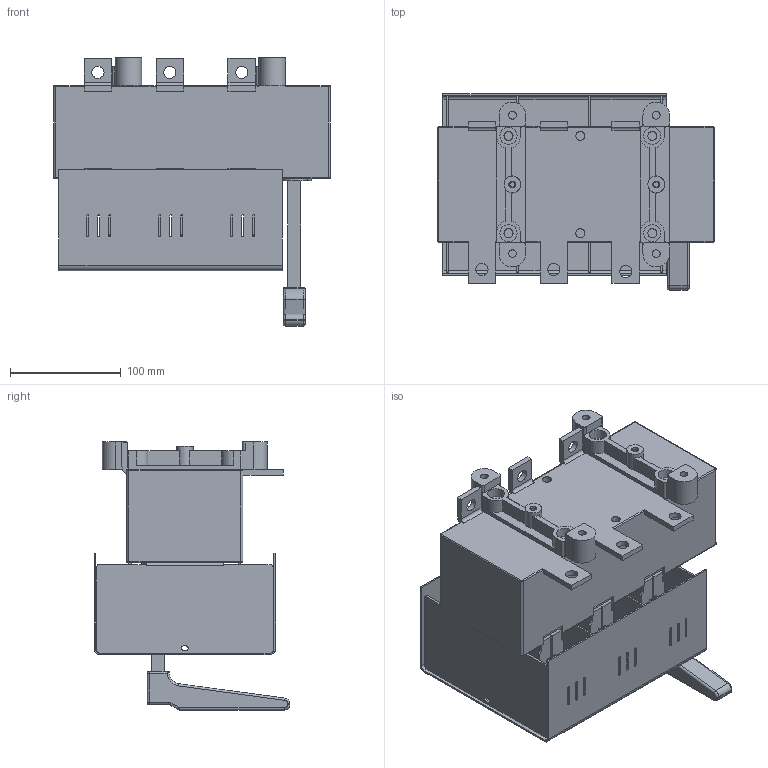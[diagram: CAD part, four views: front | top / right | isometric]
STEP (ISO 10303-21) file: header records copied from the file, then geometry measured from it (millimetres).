
FILE_DESCRIPTION(/* description */ (''),/* implementation_level */ '2;1');
FILE_NAME(/* name */ 'RAB 2 P3 B-R.stp',/* time_stamp */ '2021-08-19T13:56:56+02:00',/* author */ (''),/* organization */ (''),/* preprocessor_version */ 'ST-DEVELOPER v18.1',/* originating_system */ 'SIEMENS PLM Software NX 1965',/* authorisation */ '');
FILE_SCHEMA (('AUTOMOTIVE_DESIGN { 1 0 10303 214 3 1 1 1 }'));
Length unit declared in the file: millimetre
Products named in the file (1): RAB 2 P3 B-R_stp
Bounding box: 250 x 177 x 242.3 mm (x, y, z)
Volume: 2494709.2 mm3; surface area: 447335.8 mm2
Topology: 1 solids, 7 shells, 1161 faces, 3146 edges, 2026 vertices
Faces by surface type: plane 736, cylinder 403, torus 13, sphere 6, bspline 3
Full cylindrical faces by diameter (mm): 4.8 x2, 5.2 x18, 6.2 x2, 7 x4, 8.2 x6, 11 x6, 14 x4, 15 x2, 15.5 x4
Entity records: 36385 total; most frequent: CARTESIAN_POINT 6423, DIRECTION 6224, ORIENTED_EDGE 6176, EDGE_CURVE 3088, LINE 2242, VECTOR 2242, VERTEX_POINT 2022, AXIS2_PLACEMENT_3D 1991
